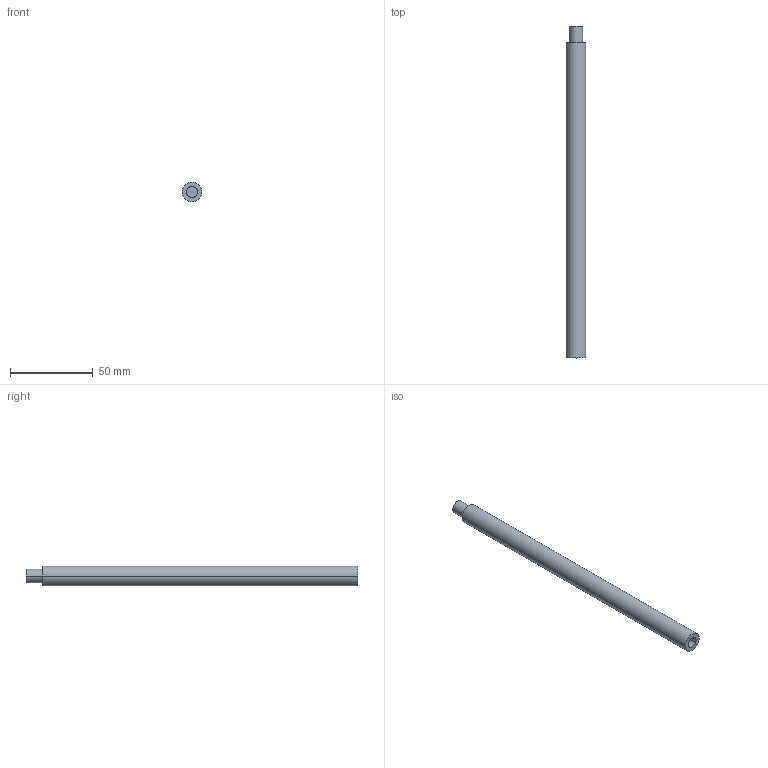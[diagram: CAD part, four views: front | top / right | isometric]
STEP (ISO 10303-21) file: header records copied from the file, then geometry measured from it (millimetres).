
FILE_DESCRIPTION(('CATIA V5 STEP Exchange'),'2;1');
FILE_NAME('C:\Users\Administrateur\Documents\Monture\Monture_voyage\Commande\Barre_CP.stp','2023-03-13T07:13:12+00:00',('none'),('none'),'CATIA Version 5 Release 18 GA (IN-10)','CATIA V5 STEP AP203','none');
FILE_SCHEMA(('CONFIG_CONTROL_DESIGN'));
Length unit declared in the file: millimetre
Products named in the file (1): Barre_CP
Bounding box: 12 x 200 x 12 mm (x, y, z)
Volume: 21574.7 mm3; surface area: 7890.9 mm2
Topology: 1 solids, 1 shells, 10 faces, 18 edges, 12 vertices
Faces by surface type: cylinder 6, plane 4
Entity records: 269 total; most frequent: CARTESIAN_POINT 38, ORIENTED_EDGE 36, DIRECTION 32, AXIS2_PLACEMENT_3D 20, EDGE_CURVE 18, CIRCLE 12, EDGE_LOOP 12, VERTEX_POINT 12
